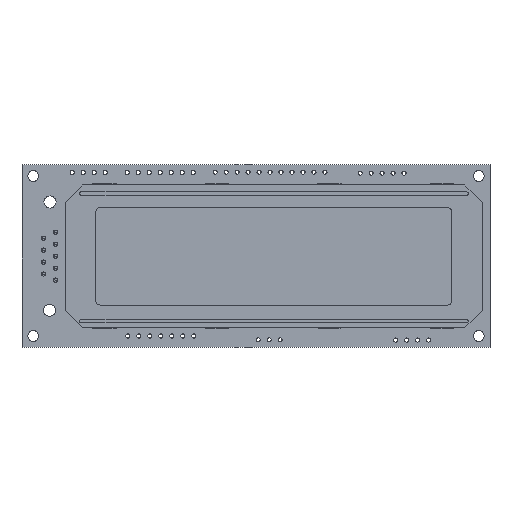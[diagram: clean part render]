
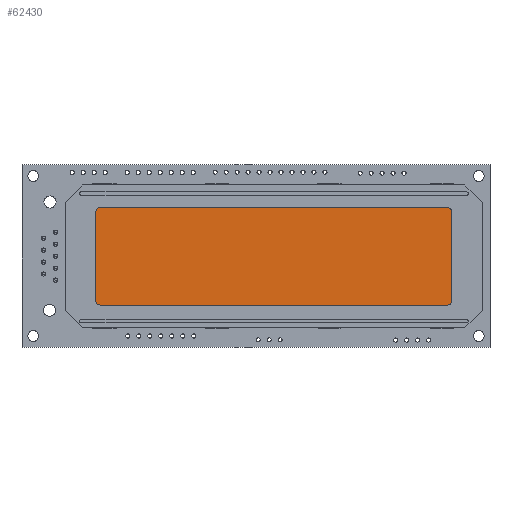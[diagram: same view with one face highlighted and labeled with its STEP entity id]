
A CAD part, top view. The second image highlights one B-rep face of the part: STEP entity #62430.
In plain terms, the highlighted planar face has unit normal (0, 0, 1).
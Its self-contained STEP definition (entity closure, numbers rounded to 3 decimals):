
#209 = CARTESIAN_POINT ( 'NONE',  ( 88.35, -6.25, 9. ) ) ;
#352 = CARTESIAN_POINT ( 'NONE',  ( 88.35, -6.25, 9. ) ) ;
#953 = CARTESIAN_POINT ( 'NONE',  ( 88.35, -5.25, 9. ) ) ;
#1751 = EDGE_CURVE ( 'NONE', #23990, #41569, #13112, .T. ) ;
#2603 = DIRECTION ( 'NONE',  ( -1., 0., 0. ) ) ;
#3247 = EDGE_CURVE ( 'NONE', #8979, #55185, #64696, .T. ) ;
#4525 = VECTOR ( 'NONE', #38196, 1000. ) ;
#4713 = ORIENTED_EDGE ( 'NONE', *, *, #1751, .T. ) ;
#5357 = CIRCLE ( 'NONE', #57368, 1. ) ;
#5529 = DIRECTION ( 'NONE',  ( 1., 0., 0. ) ) ;
#5878 = LINE ( 'NONE', #58438, #65957 ) ;
#6969 = CARTESIAN_POINT ( 'NONE',  ( 89.35, -6.25, 9. ) ) ;
#7315 = ORIENTED_EDGE ( 'NONE', *, *, #21799, .T. ) ;
#7548 = VECTOR ( 'NONE', #33695, 1000. ) ;
#8979 = VERTEX_POINT ( 'NONE', #12670 ) ;
#11007 = AXIS2_PLACEMENT_3D ( 'NONE', #209, #52493, #32743 ) ;
#12064 = PLANE ( 'NONE',  #11007 ) ;
#12670 = CARTESIAN_POINT ( 'NONE',  ( 7.05, -26.75, 9. ) ) ;
#13112 = CIRCLE ( 'NONE', #51065, 1. ) ;
#13715 = ORIENTED_EDGE ( 'NONE', *, *, #44390, .T. ) ;
#14069 = CARTESIAN_POINT ( 'NONE',  ( 8.05, -6.25, 9. ) ) ;
#15818 = ORIENTED_EDGE ( 'NONE', *, *, #41369, .T. ) ;
#16164 = FACE_OUTER_BOUND ( 'NONE', #22338, .T. ) ;
#16340 = CIRCLE ( 'NONE', #41249, 1. ) ;
#18529 = CARTESIAN_POINT ( 'NONE',  ( 89.35, -6.25, 9. ) ) ;
#19114 = CARTESIAN_POINT ( 'NONE',  ( 88.35, -26.75, 9. ) ) ;
#19353 = CARTESIAN_POINT ( 'NONE',  ( 8.05, -27.75, 9. ) ) ;
#21062 = DIRECTION ( 'NONE',  ( -1., 0., 0. ) ) ;
#21799 = EDGE_CURVE ( 'NONE', #65644, #53545, #5357, .T. ) ;
#22338 = EDGE_LOOP ( 'NONE', ( #7315, #43670, #45496, #15818, #39006, #13715, #4713, #41298 ) ) ;
#22393 = AXIS2_PLACEMENT_3D ( 'NONE', #44532, #50344, #65262 ) ;
#23301 = LINE ( 'NONE', #42975, #35027 ) ;
#23990 = VERTEX_POINT ( 'NONE', #66986 ) ;
#24995 = VERTEX_POINT ( 'NONE', #31282 ) ;
#29313 = CARTESIAN_POINT ( 'NONE',  ( 7.05, -6.25, 9. ) ) ;
#29320 = DIRECTION ( 'NONE',  ( 0., 0., 1. ) ) ;
#30350 = DIRECTION ( 'NONE',  ( 1., 0., 0. ) ) ;
#31282 = CARTESIAN_POINT ( 'NONE',  ( 7.05, -6.25, 9. ) ) ;
#32743 = DIRECTION ( 'NONE',  ( -1., 0., 0. ) ) ;
#33363 = DIRECTION ( 'NONE',  ( 1., 0., 0. ) ) ;
#33695 = DIRECTION ( 'NONE',  ( 0., -1., 0. ) ) ;
#34400 = DIRECTION ( 'NONE',  ( 0., 0., 1. ) ) ;
#34507 = EDGE_CURVE ( 'NONE', #41569, #65644, #48738, .T. ) ;
#35027 = VECTOR ( 'NONE', #2603, 1000. ) ;
#35544 = EDGE_CURVE ( 'NONE', #53545, #52614, #23301, .T. ) ;
#38196 = DIRECTION ( 'NONE',  ( 0., 1., 0. ) ) ;
#39006 = ORIENTED_EDGE ( 'NONE', *, *, #3247, .T. ) ;
#41249 = AXIS2_PLACEMENT_3D ( 'NONE', #14069, #34400, #30350 ) ;
#41298 = ORIENTED_EDGE ( 'NONE', *, *, #34507, .T. ) ;
#41369 = EDGE_CURVE ( 'NONE', #24995, #8979, #64948, .T. ) ;
#41569 = VERTEX_POINT ( 'NONE', #52011 ) ;
#42908 = CARTESIAN_POINT ( 'NONE',  ( 8.05, -5.25, 9. ) ) ;
#42975 = CARTESIAN_POINT ( 'NONE',  ( 8.05, -5.25, 9. ) ) ;
#43670 = ORIENTED_EDGE ( 'NONE', *, *, #35544, .T. ) ;
#44390 = EDGE_CURVE ( 'NONE', #55185, #23990, #5878, .T. ) ;
#44532 = CARTESIAN_POINT ( 'NONE',  ( 8.05, -26.75, 9. ) ) ;
#45496 = ORIENTED_EDGE ( 'NONE', *, *, #61783, .T. ) ;
#46505 = DIRECTION ( 'NONE',  ( 0., 0., 1. ) ) ;
#48738 = LINE ( 'NONE', #18529, #4525 ) ;
#50344 = DIRECTION ( 'NONE',  ( 0., 0., 1. ) ) ;
#51065 = AXIS2_PLACEMENT_3D ( 'NONE', #19114, #29320, #33363 ) ;
#52011 = CARTESIAN_POINT ( 'NONE',  ( 89.35, -26.75, 9. ) ) ;
#52493 = DIRECTION ( 'NONE',  ( 0., 0., -1. ) ) ;
#52614 = VERTEX_POINT ( 'NONE', #42908 ) ;
#53545 = VERTEX_POINT ( 'NONE', #953 ) ;
#55185 = VERTEX_POINT ( 'NONE', #19353 ) ;
#57368 = AXIS2_PLACEMENT_3D ( 'NONE', #352, #46505, #21062 ) ;
#58438 = CARTESIAN_POINT ( 'NONE',  ( 8.05, -27.75, 9. ) ) ;
#61783 = EDGE_CURVE ( 'NONE', #52614, #24995, #16340, .T. ) ;
#62430 = ADVANCED_FACE ( 'NONE', ( #16164 ), #12064, .F. ) ;
#64696 = CIRCLE ( 'NONE', #22393, 1. ) ;
#64948 = LINE ( 'NONE', #29313, #7548 ) ;
#65262 = DIRECTION ( 'NONE',  ( 1., 0., 0. ) ) ;
#65644 = VERTEX_POINT ( 'NONE', #6969 ) ;
#65957 = VECTOR ( 'NONE', #5529, 1000. ) ;
#66986 = CARTESIAN_POINT ( 'NONE',  ( 88.35, -27.75, 9. ) ) ;
